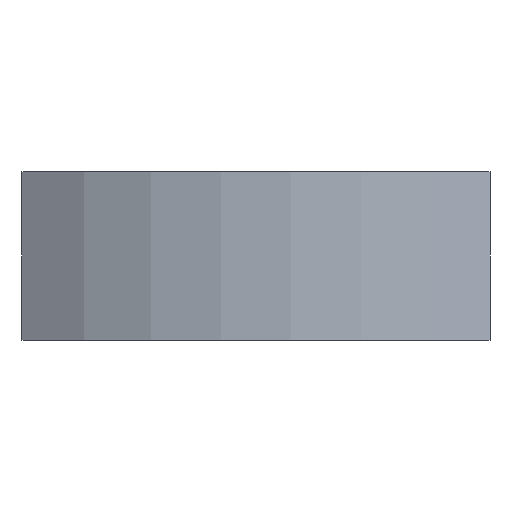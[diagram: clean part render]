
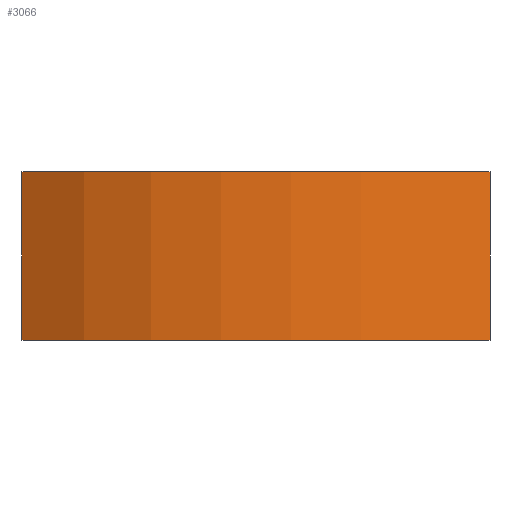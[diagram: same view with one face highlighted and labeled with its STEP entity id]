
A CAD part, left-side view. The second image highlights one B-rep face of the part: STEP entity #3066.
In plain terms, the highlighted cylindrical face has radius 22.5 mm (diameter 45 mm), a partial arc.
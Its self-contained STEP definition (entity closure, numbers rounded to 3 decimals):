
#18=CYLINDRICAL_SURFACE('',#3195,22.5);
#126=CIRCLE('',#3176,22.5);
#136=CIRCLE('',#3196,22.5);
#302=FACE_OUTER_BOUND('',#490,.T.);
#490=EDGE_LOOP('',(#2768,#2769,#2770,#2771));
#769=LINE('',#5613,#1040);
#770=LINE('',#5615,#1041);
#1040=VECTOR('',#3672,10.);
#1041=VECTOR('',#3673,10.);
#1477=VERTEX_POINT('',#5575);
#1478=VERTEX_POINT('',#5577);
#1488=VERTEX_POINT('',#5612);
#1489=VERTEX_POINT('',#5614);
#1907=EDGE_CURVE('',#1477,#1478,#126,.T.);
#1922=EDGE_CURVE('',#1478,#1488,#769,.T.);
#1923=EDGE_CURVE('',#1489,#1477,#770,.T.);
#1924=EDGE_CURVE('',#1488,#1489,#136,.T.);
#2768=ORIENTED_EDGE('',*,*,#1922,.F.);
#2769=ORIENTED_EDGE('',*,*,#1907,.F.);
#2770=ORIENTED_EDGE('',*,*,#1923,.F.);
#2771=ORIENTED_EDGE('',*,*,#1924,.F.);
#3066=ADVANCED_FACE('',(#302),#18,.T.);
#3176=AXIS2_PLACEMENT_3D('',#5578,#3627,#3628);
#3195=AXIS2_PLACEMENT_3D('',#5611,#3670,#3671);
#3196=AXIS2_PLACEMENT_3D('',#5616,#3674,#3675);
#3627=DIRECTION('center_axis',(0.,0.,1.));
#3628=DIRECTION('ref_axis',(-1.,0.,0.));
#3670=DIRECTION('center_axis',(0.,0.,-1.));
#3671=DIRECTION('ref_axis',(-1.,0.,0.));
#3672=DIRECTION('',(0.,0.,-1.));
#3673=DIRECTION('',(0.,0.,1.));
#3674=DIRECTION('center_axis',(0.,0.,-1.));
#3675=DIRECTION('ref_axis',(-1.,0.,0.));
#5575=CARTESIAN_POINT('',(-18.708,12.5,9.));
#5577=CARTESIAN_POINT('',(-18.708,-12.5,9.));
#5578=CARTESIAN_POINT('Origin',(0.,0.,9.));
#5611=CARTESIAN_POINT('Origin',(0.,0.,9.));
#5612=CARTESIAN_POINT('',(-18.708,-12.5,0.));
#5613=CARTESIAN_POINT('',(-18.708,-12.5,9.));
#5614=CARTESIAN_POINT('',(-18.708,12.5,0.));
#5615=CARTESIAN_POINT('',(-18.708,12.5,9.));
#5616=CARTESIAN_POINT('Origin',(0.,0.,0.));
